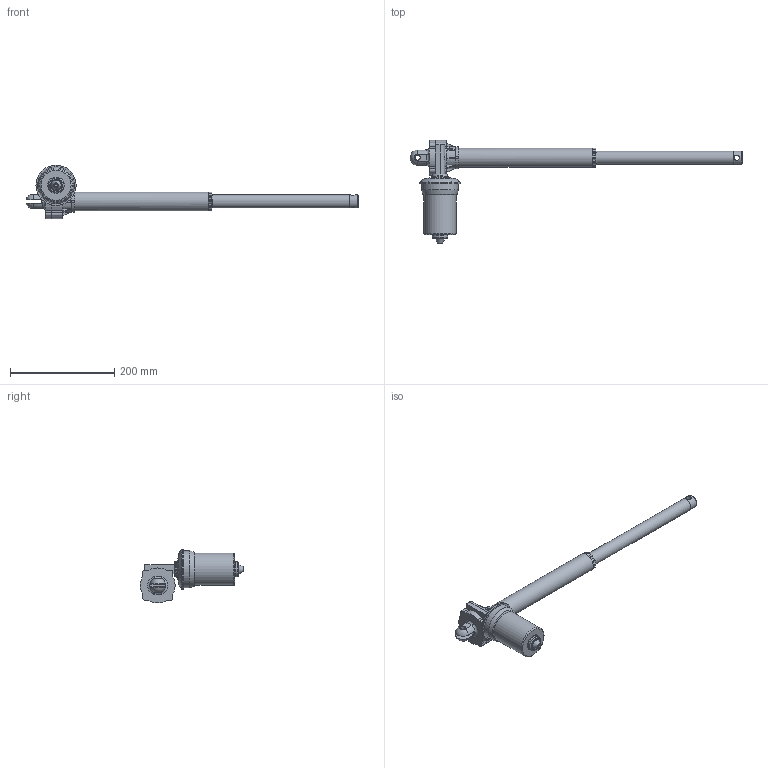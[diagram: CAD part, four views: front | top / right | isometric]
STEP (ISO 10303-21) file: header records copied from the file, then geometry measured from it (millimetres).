
FILE_DESCRIPTION(/* description */ ('STEP AP203'),/* implementation_level */ '2;1');
FILE_NAME(/* name */ 'ALI3_250_250_M04_CC-24-61_5-5000__TIPOX._0_E01__1_1',/* time_stamp */ '2026-05-08T14:56:22+02:00',/* author */ ('License CC BY-ND 4.0'),/* organization */ ('CADENAS'),/* preprocessor_version */ 'ST-DEVELOPER v20',/* originating_system */ 'PARTsolutions',/* authorisation */ ' ');
FILE_SCHEMA (('CONFIG_CONTROL_DESIGN'));
Length unit declared in the file: millimetre
Products named in the file (6): ALI3/250/250/M04/CC-24-61,5-5000/$TIPOX./0/E01//1/1/////; corpo_ALI3.250.0.01; AP_ALI32; CD012.0010-G; asta_ALI3.250; C1
Assembly tree (6 placements, depth 2):
  ALI3/250/250/M04/CC-24-61,5-5000/$TIPOX./0/E01//1/1/////
    corpo_ALI3.250.0.01
    AP_ALI32
    CD012.0010-G
    asta_ALI3.250
    C1  x2
Bounding box: 636.59 x 198.41 x 102.91 mm (x, y, z)
Volume: 829692.1 mm3; surface area: 152308.4 mm2
Topology: 6 solids, 6 shells, 200 faces, 512 edges, 328 vertices
Faces by surface type: plane 102, cylinder 58, cone 25, torus 13, sphere 2
Full cylindrical faces by diameter (mm): 10 x4, 25 x4, 29.5 x1, 36 x1, 42 x1, 61.5 x1, 70.5 x1, 77 x1
Entity records: 5963 total; most frequent: CARTESIAN_POINT 1178, DIRECTION 1012, ORIENTED_EDGE 928, EDGE_CURVE 464, AXIS2_PLACEMENT_3D 394, VERTEX_POINT 315, EDGE_LOOP 237, FACE_BOUND 237
